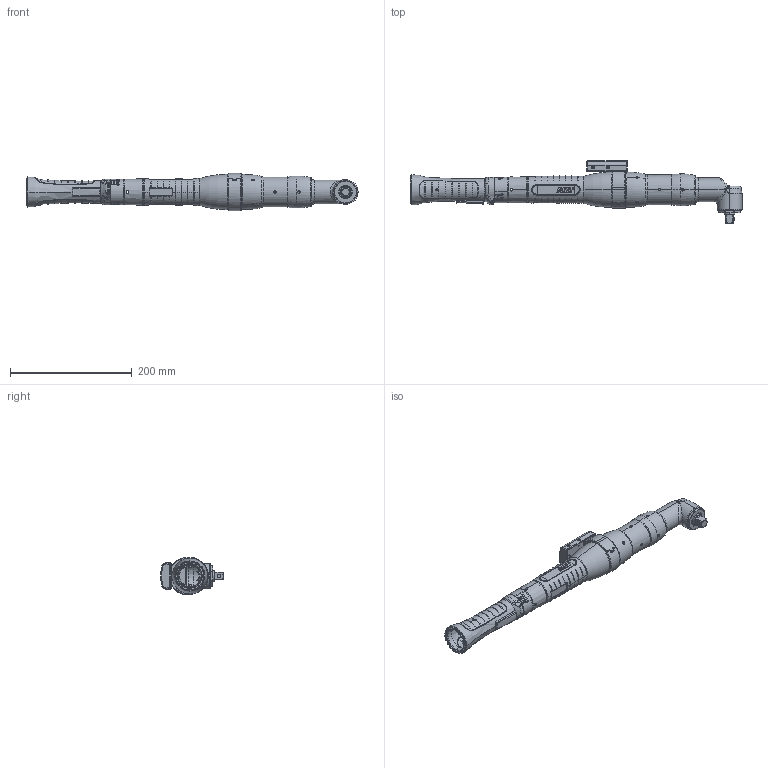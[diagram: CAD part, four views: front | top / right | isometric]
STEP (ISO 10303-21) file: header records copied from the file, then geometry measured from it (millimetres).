
FILE_DESCRIPTION (( 'STEP AP214' ), '1' );
FILE_NAME ('7900204_HCX2100WV12_GyroFlex.STEP', '2012-02-07T16:28:08', ( ' ' ), ( '' ), 'SwSTEP 2.0', 'SolidWorks 2009', '' );
FILE_SCHEMA (( 'AUTOMOTIVE_DESIGN' ));
Length unit declared in the file: millimetre
Products named in the file (1): 7900204_HCX2100WV12_GyroFlex
Bounding box: 546.25 x 102.78 x 61 mm (x, y, z)
Surface area: 115479.4 mm2 (no closed solid volume)
Topology: 0 solids, 45 shells, 1070 faces, 3778 edges, 2584 vertices
Faces by surface type: cylinder 286, plane 267, torus 251, bspline 190, cone 50, sphere 26
Entity records: 67460 total; most frequent: CARTESIAN_POINT 25861, DIRECTION 6053, ORIENTED_EDGE 5854, EDGE_CURVE 3768, VERTEX_POINT 2582, AXIS2_PLACEMENT_3D 2559, CIRCLE 1678, EDGE_LOOP 1203
